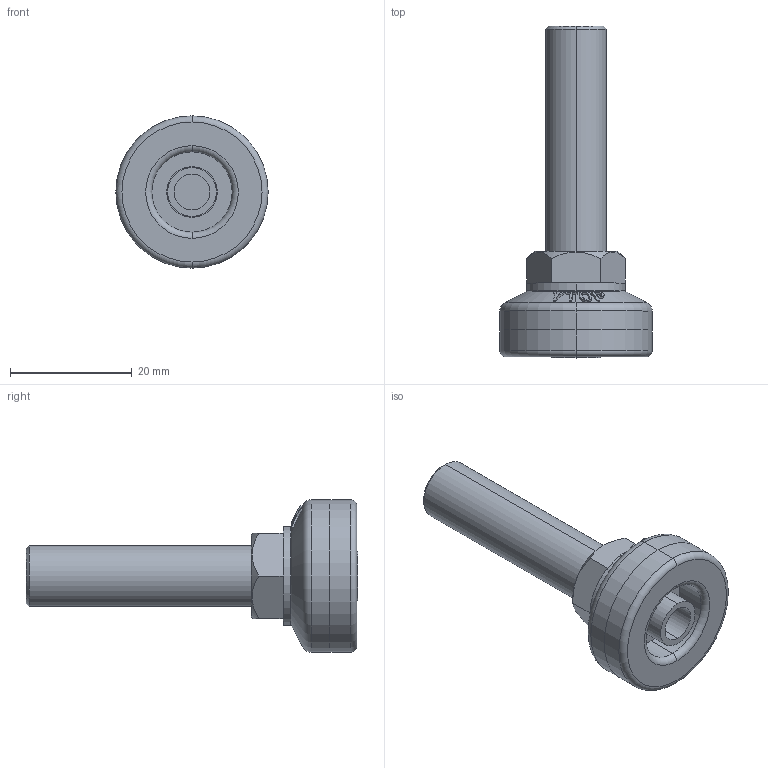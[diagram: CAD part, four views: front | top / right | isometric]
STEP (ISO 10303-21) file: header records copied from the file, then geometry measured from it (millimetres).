
FILE_DESCRIPTION (( 'STEP AP203' ), '1' );
FILE_NAME ('R-25-1037-TPU.STEP', '2020-09-11T02:19:55', ( '' ), ( '' ), 'SwSTEP 2.0', 'SolidWorks 2016', '' );
FILE_SCHEMA (( 'CONFIG_CONTROL_DESIGN' ));
Length unit declared in the file: millimetre
Products named in the file (4): R-25-1037-TPU; S倰覃誹褐_25裔赽; S倰覃誹褐_25菁菜; 穩諉蹟裝M10炵蹈_M10X37
Assembly tree (3 placements, depth 2):
  R-25-1037-TPU
    S倰覃誹褐_25菁菜
    S倰覃誹褐_25裔赽
    穩諉蹟裝M10炵蹈_M10X37
Bounding box: 25 x 54.5 x 25 mm (x, y, z)
Volume: 7450.3 mm3; surface area: 6156.6 mm2
Topology: 3 solids, 3 shells, 130 faces, 311 edges, 200 vertices
Faces by surface type: bspline 38, plane 36, cylinder 26, torus 16, cone 14
Entity records: 6930 total; most frequent: CARTESIAN_POINT 3750, ORIENTED_EDGE 622, DIRECTION 491, EDGE_CURVE 311, AXIS2_PLACEMENT_3D 206, VERTEX_POINT 200, EDGE_LOOP 147, ADVANCED_FACE 130
